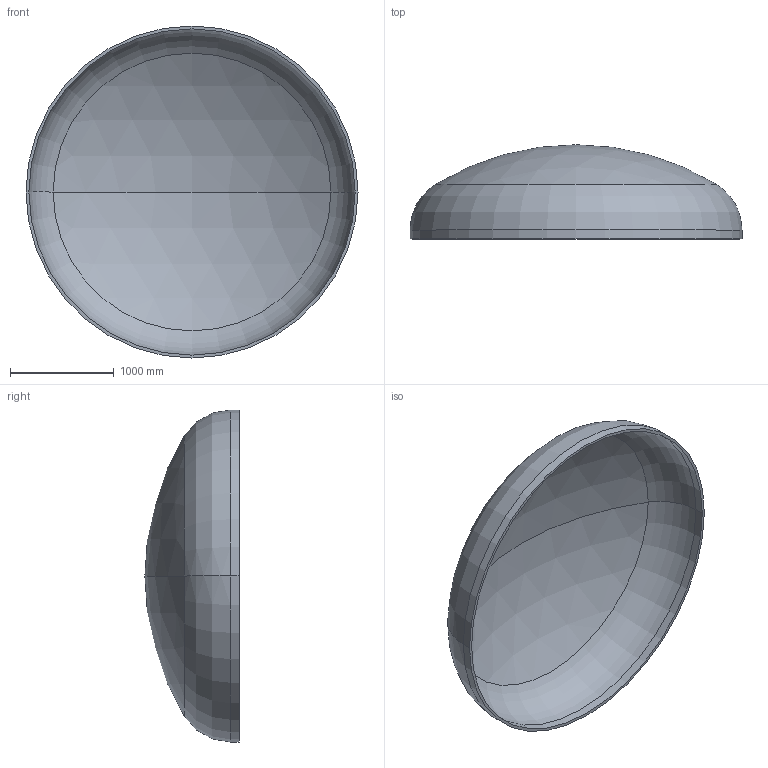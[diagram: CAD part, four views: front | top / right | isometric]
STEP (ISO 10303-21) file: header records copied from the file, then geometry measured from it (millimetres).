
FILE_DESCRIPTION (( 'STEP AP203' ), '1' );
FILE_NAME ('DIN 28013 Korbbogenform_-_Boden DIN 28013 - 3200 x 85 - I - s=28.step', '2016-07-01T18:28:58', ( '' ), ( '' ), 'SwSTEP 2.0', 'SolidWorks 2013', '' );
FILE_SCHEMA (( 'CONFIG_CONTROL_DESIGN' ));
Length unit declared in the file: millimetre
Products named in the file (1): DIN 28013 Korbbogenform_-_Boden DIN 28013 - 3200 x 85 - I - s=28
Bounding box: 3200 x 908.3 x 3200 mm (x, y, z)
Volume: 331670926.7 mm3; surface area: 23971437.2 mm2
Topology: 1 solids, 1 shells, 13 faces, 24 edges, 14 vertices
Faces by surface type: torus 4, cylinder 4, sphere 4, plane 1
Entity records: 407 total; most frequent: DIRECTION 72, CARTESIAN_POINT 52, ORIENTED_EDGE 48, AXIS2_PLACEMENT_3D 34, EDGE_CURVE 24, CIRCLE 20, VERTEX_POINT 14, EDGE_LOOP 14
